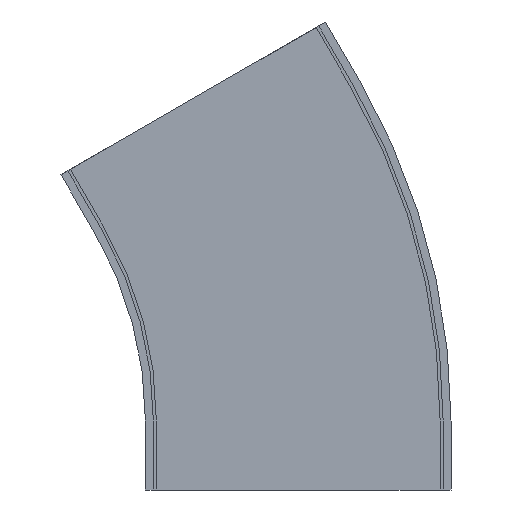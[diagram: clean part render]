
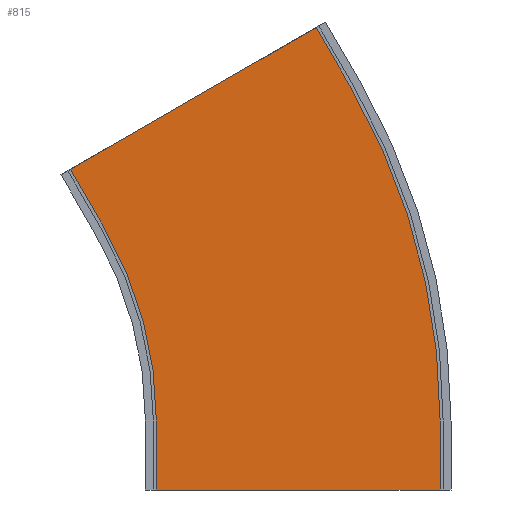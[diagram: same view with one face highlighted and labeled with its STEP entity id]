
A CAD part, front view. The second image highlights one B-rep face of the part: STEP entity #815.
In plain terms, the highlighted planar face has unit normal (0, -1, 0).
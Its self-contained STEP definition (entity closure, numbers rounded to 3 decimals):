
#77 = CARTESIAN_POINT ( 'NONE',  ( 507.95, -68.25, -52.5 ) ) ;
#102 = VERTEX_POINT ( 'NONE', #414 ) ;
#156 = LINE ( 'NONE', #2049, #221 ) ;
#187 = LINE ( 'NONE', #1086, #367 ) ;
#221 = VECTOR ( 'NONE', #712, 1000. ) ;
#233 = ORIENTED_EDGE ( 'NONE', *, *, #1754, .T. ) ;
#243 = CARTESIAN_POINT ( 'NONE',  ( 226.673, -68.25, 191.491 ) ) ;
#259 = EDGE_CURVE ( 'NONE', #2471, #814, #1979, .T. ) ;
#314 = VECTOR ( 'NONE', #1009, 1000. ) ;
#356 = DIRECTION ( 'NONE',  ( -1., 0., 0. ) ) ;
#357 = VERTEX_POINT ( 'NONE', #673 ) ;
#367 = VECTOR ( 'NONE', #2442, 1000. ) ;
#414 = CARTESIAN_POINT ( 'NONE',  ( 292.05, -68.25, 0. ) ) ;
#429 = CARTESIAN_POINT ( 'NONE',  ( 0., -68.25, -52.5 ) ) ;
#444 = VERTEX_POINT ( 'NONE', #1882 ) ;
#458 = CARTESIAN_POINT ( 'NONE',  ( 252.923, -68.25, 146.025 ) ) ;
#467 = EDGE_CURVE ( 'NONE', #357, #1670, #2348, .T. ) ;
#479 = EDGE_CURVE ( 'NONE', #1363, #444, #187, .T. ) ;
#535 = ORIENTED_EDGE ( 'NONE', *, *, #2226, .T. ) ;
#570 = AXIS2_PLACEMENT_3D ( 'NONE', #1113, #1313, #356 ) ;
#602 = LINE ( 'NONE', #2321, #1040 ) ;
#673 = CARTESIAN_POINT ( 'NONE',  ( 439.898, -68.25, 253.975 ) ) ;
#712 = DIRECTION ( 'NONE',  ( 0., 0., 1. ) ) ;
#738 = CIRCLE ( 'NONE', #997, 292.05 ) ;
#741 = EDGE_CURVE ( 'NONE', #819, #102, #738, .T. ) ;
#814 = VERTEX_POINT ( 'NONE', #2394 ) ;
#815 = ADVANCED_FACE ( 'NONE', ( #1969 ), #1619, .F. ) ;
#819 = VERTEX_POINT ( 'NONE', #2372 ) ;
#914 = AXIS2_PLACEMENT_3D ( 'NONE', #458, #1780, #2001 ) ;
#959 = ORIENTED_EDGE ( 'NONE', *, *, #1779, .F. ) ;
#997 = AXIS2_PLACEMENT_3D ( 'NONE', #2141, #1393, #1568 ) ;
#1009 = DIRECTION ( 'NONE',  ( -1., 0., 0. ) ) ;
#1040 = VECTOR ( 'NONE', #1149, 1000. ) ;
#1086 = CARTESIAN_POINT ( 'NONE',  ( -26.25, -68.25, 45.466 ) ) ;
#1113 = CARTESIAN_POINT ( 'NONE',  ( 0., -68.25, 0. ) ) ;
#1149 = DIRECTION ( 'NONE',  ( 0.5, 0., -0.866 ) ) ;
#1313 = DIRECTION ( 'NONE',  ( 0., 1., 0. ) ) ;
#1363 = VERTEX_POINT ( 'NONE', #243 ) ;
#1369 = CARTESIAN_POINT ( 'NONE',  ( 507.95, -68.25, 0. ) ) ;
#1388 = ORIENTED_EDGE ( 'NONE', *, *, #467, .F. ) ;
#1393 = DIRECTION ( 'NONE',  ( 0., 1., 0. ) ) ;
#1568 = DIRECTION ( 'NONE',  ( -1., 0., 0. ) ) ;
#1619 = PLANE ( 'NONE',  #914 ) ;
#1670 = VERTEX_POINT ( 'NONE', #1369 ) ;
#1687 = ORIENTED_EDGE ( 'NONE', *, *, #259, .F. ) ;
#1733 = CARTESIAN_POINT ( 'NONE',  ( 507.95, -68.25, -52.5 ) ) ;
#1754 = EDGE_CURVE ( 'NONE', #2471, #1670, #2035, .T. ) ;
#1779 = EDGE_CURVE ( 'NONE', #444, #357, #2438, .T. ) ;
#1780 = DIRECTION ( 'NONE',  ( 0., 1., 0. ) ) ;
#1791 = ORIENTED_EDGE ( 'NONE', *, *, #479, .F. ) ;
#1810 = ORIENTED_EDGE ( 'NONE', *, *, #2409, .F. ) ;
#1882 = CARTESIAN_POINT ( 'NONE',  ( 413.648, -68.25, 299.441 ) ) ;
#1913 = DIRECTION ( 'NONE',  ( 0., 0., 1. ) ) ;
#1919 = VECTOR ( 'NONE', #1913, 1000. ) ;
#1969 = FACE_OUTER_BOUND ( 'NONE', #2325, .T. ) ;
#1979 = LINE ( 'NONE', #429, #314 ) ;
#2001 = DIRECTION ( 'NONE',  ( -1., 0., 0. ) ) ;
#2035 = LINE ( 'NONE', #1733, #1919 ) ;
#2049 = CARTESIAN_POINT ( 'NONE',  ( 292.05, -68.25, -52.5 ) ) ;
#2141 = CARTESIAN_POINT ( 'NONE',  ( 0., -68.25, 0. ) ) ;
#2162 = DIRECTION ( 'NONE',  ( 0.5, 0., -0.866 ) ) ;
#2210 = ORIENTED_EDGE ( 'NONE', *, *, #741, .T. ) ;
#2226 = EDGE_CURVE ( 'NONE', #1363, #819, #602, .T. ) ;
#2321 = CARTESIAN_POINT ( 'NONE',  ( 226.673, -68.25, 191.491 ) ) ;
#2325 = EDGE_LOOP ( 'NONE', ( #2210, #1810, #1687, #233, #1388, #959, #1791, #535 ) ) ;
#2348 = CIRCLE ( 'NONE', #570, 507.95 ) ;
#2372 = CARTESIAN_POINT ( 'NONE',  ( 252.923, -68.25, 146.025 ) ) ;
#2377 = VECTOR ( 'NONE', #2162, 1000. ) ;
#2385 = CARTESIAN_POINT ( 'NONE',  ( 413.648, -68.25, 299.441 ) ) ;
#2394 = CARTESIAN_POINT ( 'NONE',  ( 292.05, -68.25, -52.5 ) ) ;
#2409 = EDGE_CURVE ( 'NONE', #814, #102, #156, .T. ) ;
#2438 = LINE ( 'NONE', #2385, #2377 ) ;
#2442 = DIRECTION ( 'NONE',  ( 0.866, 0., 0.5 ) ) ;
#2471 = VERTEX_POINT ( 'NONE', #77 ) ;
